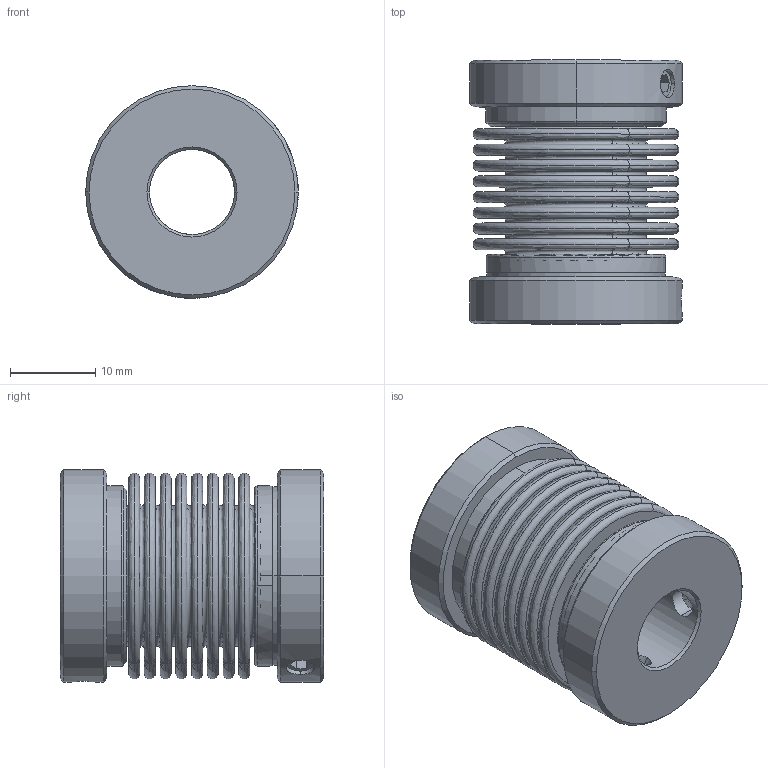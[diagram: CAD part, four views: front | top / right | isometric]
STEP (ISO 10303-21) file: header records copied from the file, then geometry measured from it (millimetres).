
FILE_DESCRIPTION (( 'STEP AP214' ), '1' );
FILE_NAME ('275055_8.0000.1502.1010~0.STEP', '2018-03-01T06:03:32', ( '' ), ( '' ), 'SwSTEP 2.0', 'SolidWorks 2017', '' );
FILE_SCHEMA (( 'AUTOMOTIVE_DESIGN' ));
Length unit declared in the file: millimetre
Products named in the file (5): 275055_Teil_1_8.0000.1502.1010~0; 275055_Teil_1_8.0000.1502.1010~0_D=21 Rechtesteite <Standard>; N631236_Gewindestift~0_03100732 Hexagon socket set screws with cup point DIN 916 M4x6; 275055_8.0000.1502.1010~0; 279957_Teil_2_8.0000.15FS.1212~0
Assembly tree (7 placements, depth 2):
  275055_8.0000.1502.1010~0
    275055_Teil_1_8.0000.1502.1010~0
    275055_Teil_1_8.0000.1502.1010~0_D=21 Rechtesteite <Standard>
    279957_Teil_2_8.0000.15FS.1212~0
    N631236_Gewindestift~0_03100732 Hexagon socket set screws with cup point DIN 916 M4x6  x4
Bounding box: 25 x 31 x 25 mm (x, y, z)
Volume: 7277.7 mm3; surface area: 14573.7 mm2
Topology: 7 solids, 7 shells, 282 faces, 622 edges, 384 vertices
Faces by surface type: bspline 102, plane 92, cylinder 40, cone 40, torus 8
Entity records: 15119 total; most frequent: CARTESIAN_POINT 9294, ORIENTED_EDGE 1024, DIRECTION 882, EDGE_CURVE 512, AXIS2_PLACEMENT_3D 386, VERTEX_POINT 321, EDGE_LOOP 283, CIRCLE 244
